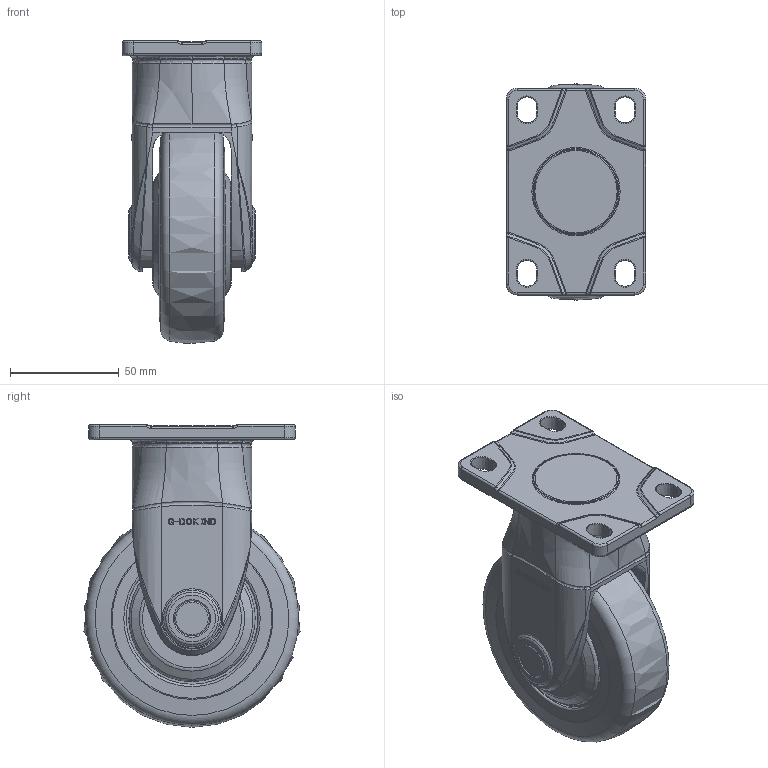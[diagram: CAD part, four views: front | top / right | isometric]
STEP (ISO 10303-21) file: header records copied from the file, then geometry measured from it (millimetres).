
FILE_DESCRIPTION(/* description */ (''),/* implementation_level */ '2;1');
FILE_NAME(/* name */ '\\192.168.10.38\지덕공유\1.기술연구소\2.연구개발 진행중\129.Plastic caster검토건_2025.08.12\1.도면\4.홈페이지용 도면\GPC-100-ARF_F5-2-0.5_샤프트 리벳_Shrinkwrap_1.stp',/* time_stamp */ '2026-08-20T15:40:00+09:00',/* author */ ('admin'),/* organization */ (''),/* preprocessor_version */ 'ST-DEVELOPER v18.1',/* originating_system */ 'Autodesk Inventor 2021',/* authorisation */ '');
FILE_SCHEMA (('AUTOMOTIVE_DESIGN { 1 0 10303 214 3 1 1 }'));
Products named in the file (1): GPC-100-ARF_F5-2-0.5_샤프트 리벳_
Shrinkwrap_1
Bounding box: 64 x 99.27 x 139 mm (x, y, z)
Volume: 376496.5 mm3; surface area: 61679.4 mm2
Topology: 1 solids, 7 shells, 925 faces, 2388 edges, 1498 vertices
Faces by surface type: bspline 320, plane 300, cylinder 174, torus 83, cone 39, sphere 9
Entity records: 61825 total; most frequent: CARTESIAN_POINT 41021, ORIENTED_EDGE 4748, DIRECTION 3653, EDGE_CURVE 2374, VERTEX_POINT 1498, AXIS2_PLACEMENT_3D 1343, EDGE_LOOP 972, LINE 967
